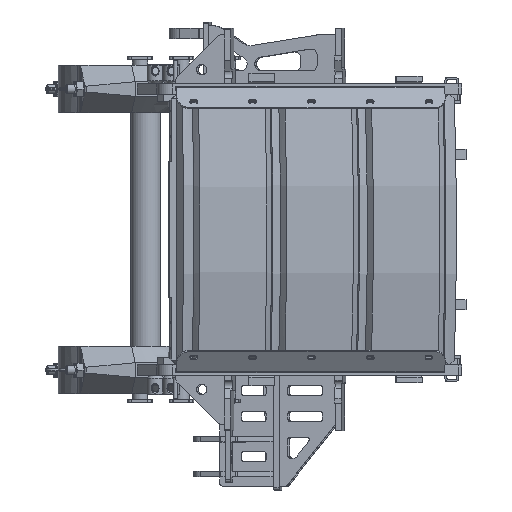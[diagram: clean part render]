
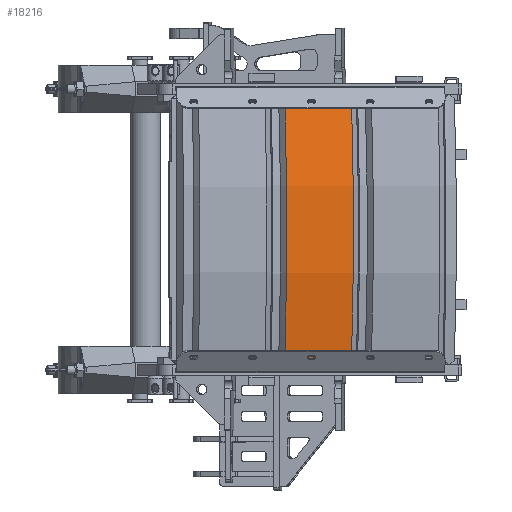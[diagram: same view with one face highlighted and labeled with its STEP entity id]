
A CAD part, left-side view. The second image highlights one B-rep face of the part: STEP entity #18216.
In plain terms, the highlighted cylindrical face has radius 2300 mm (diameter 4600 mm), a partial arc.
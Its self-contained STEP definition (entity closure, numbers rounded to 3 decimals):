
#4912=LINE('',#91095,#9345);
#4913=LINE('',#91099,#9346);
#9345=VECTOR('',#71510,1.);
#9346=VECTOR('',#71513,1.);
#15326=FACE_OUTER_BOUND('',#23976,.T.);
#18216=ADVANCED_FACE('',(#15326),#19421,.T.);
#19421=CYLINDRICAL_SURFACE('',#58236,2300.);
#23976=EDGE_LOOP('',(#36731,#36732,#36733,#36734));
#36731=ORIENTED_EDGE('',*,*,#49875,.T.);
#36732=ORIENTED_EDGE('',*,*,#49876,.T.);
#36733=ORIENTED_EDGE('',*,*,#49877,.T.);
#36734=ORIENTED_EDGE('',*,*,#49878,.T.);
#43062=VERTEX_POINT('',#91093);
#43063=VERTEX_POINT('',#91094);
#43064=VERTEX_POINT('',#91096);
#43065=VERTEX_POINT('',#91098);
#49875=EDGE_CURVE('',#43062,#43063,#53626,.T.);
#49876=EDGE_CURVE('',#43063,#43064,#4912,.T.);
#49877=EDGE_CURVE('',#43064,#43065,#53627,.T.);
#49878=EDGE_CURVE('',#43065,#43062,#4913,.T.);
#53626=CIRCLE('',#58234,2300.);
#53627=CIRCLE('',#58235,2300.);
#58234=AXIS2_PLACEMENT_3D('',#91092,#71508,#71509);
#58235=AXIS2_PLACEMENT_3D('',#91097,#71511,#71512);
#58236=AXIS2_PLACEMENT_3D('',#91100,#71514,#71515);
#71508=DIRECTION('',(-0.131,0.991,0.));
#71509=DIRECTION('',(0.991,0.131,0.));
#71510=DIRECTION('',(-0.131,0.991,0.));
#71511=DIRECTION('',(0.131,-0.991,0.));
#71512=DIRECTION('',(-0.991,-0.131,0.));
#71513=DIRECTION('',(0.131,-0.991,0.));
#71514=DIRECTION('',(-0.131,0.991,0.));
#71515=DIRECTION('',(-0.991,-0.131,0.));
#91092=CARTESIAN_POINT('',(1083.979,-595.326,0.));
#91093=CARTESIAN_POINT('',(-1142.016,-888.384,-499.063));
#91094=CARTESIAN_POINT('',(-1142.016,-888.384,499.063));
#91095=CARTESIAN_POINT('',(-1094.679,-1247.943,499.063));
#91096=CARTESIAN_POINT('',(-1176.041,-629.937,499.063));
#91097=CARTESIAN_POINT('',(1049.954,-336.879,0.));
#91098=CARTESIAN_POINT('',(-1176.041,-629.937,-499.063));
#91099=CARTESIAN_POINT('',(-1094.679,-1247.943,-499.063));
#91100=CARTESIAN_POINT('',(1131.316,-954.885,0.));
